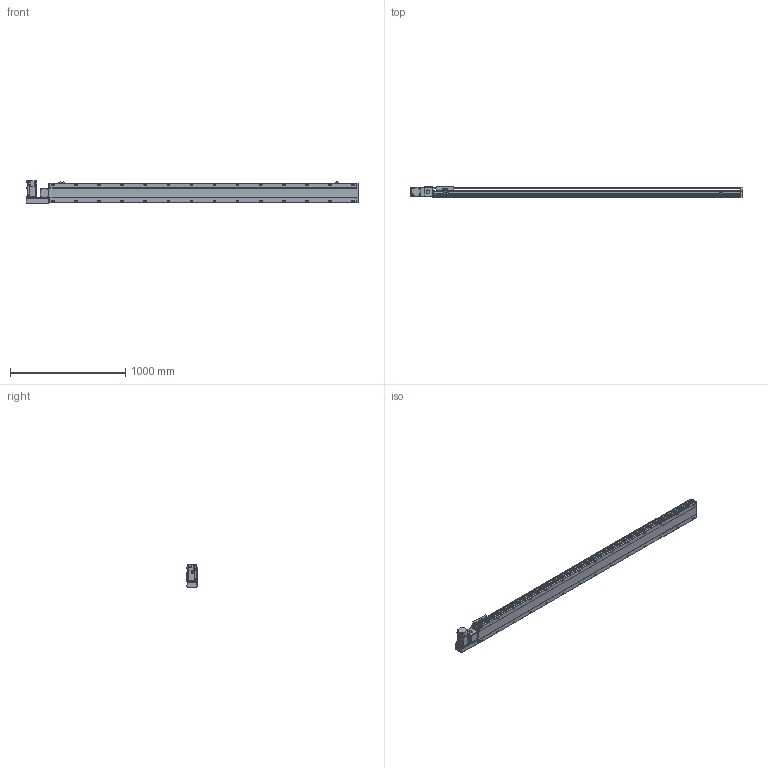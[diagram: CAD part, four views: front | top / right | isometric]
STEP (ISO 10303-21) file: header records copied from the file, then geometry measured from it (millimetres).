
FILE_DESCRIPTION( ( 'STEP AP214' ), '1' );
FILE_NAME( 'x:/temp/worker_3/temp/exporttempdir_5796_123_6gPPk/format_0/PBS170-P40-S2400-L-T75-C1-N(0).stp', '2022-06-07T06:58:41', ( 'License CC BY-ND 4.0' ), ( 'CADENAS' ), ' ', 'PARTsolutions', ' ' );
FILE_SCHEMA( ( 'AUTOMOTIVE_DESIGN { 1 0 10303 214 1 1 1 1 }' ) );
Length unit declared in the file: millimetre
Products named in the file (7): PBS170-P40-S2400-L-T75-C1-N(0); _PBS170-S2400()_body; _PBS170T-L_motors; _T75-p1; _PBS170_sliser; _PBS170_plant; _PBS170_sensor
Assembly tree (8 placements, depth 2):
  PBS170-P40-S2400-L-T75-C1-N(0)
    _PBS170-S2400()_body
    _PBS170T-L_motors
    _T75-p1
    _PBS170_sliser
    _PBS170_plant
    _PBS170_sensor  x3
Bounding box: 2878 x 97 x 197.3 mm (x, y, z)
Volume: 20968085.4 mm3; surface area: 2642827.2 mm2
Topology: 8 solids, 8 shells, 1178 faces, 3115 edges, 2030 vertices
Faces by surface type: plane 723, cylinder 387, cone 58, sphere 8, torus 2
Full cylindrical faces by diameter (mm): 3.242 x4, 4 x2, 4.4 x4, 4.5 x6, 4.917 x4, 6 x9, 6.647 x36, 7 x2, 7.5 x4, 8 x8, 8.5 x28, 10 x4, 10.5 x28, 11 x2, 30 x2, 40 x1, 70 x1
Entity records: 43592 total; most frequent: CARTESIAN_POINT 7229, DIRECTION 5720, ORIENTED_EDGE 5388, EDGE_CURVE 2694, AXIS2_PLACEMENT_3D 2017, VERTEX_POINT 1874, LINE 1686, VECTOR 1686
